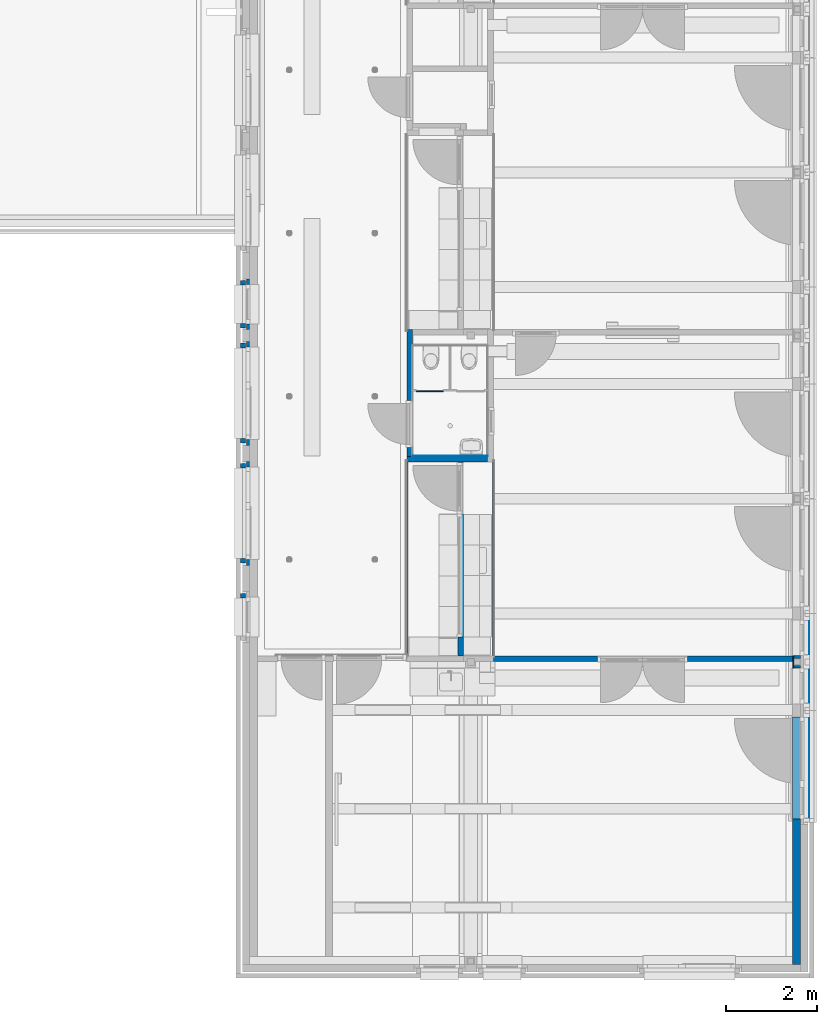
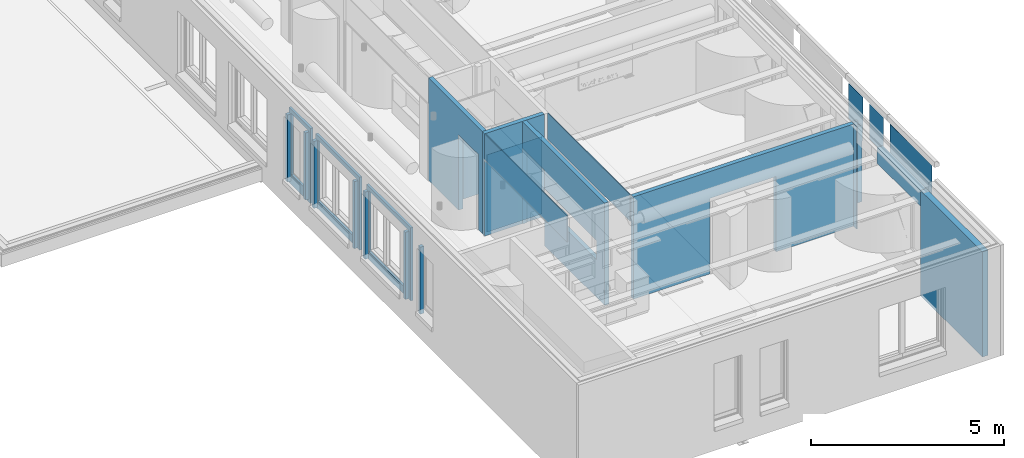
# One storey, part 34 of 128: 26 walls, 8 openings.
"""IFC2X3 building model written with IfcOpenShell, lengths in millimetres."""

from ifc_helpers import new_model, entity, si_unit, converted_unit, derived_unit, direction, frame, frame_2d, origin, place, context, subcontext, project, spatial, rectangle, extrude, material, layer, layer_set, layer_usage, type_object, element, save


model = new_model("IFC2X3")

# Units and contexts
model_context = context("Model", 3, precision=0.01, world=origin(), true_north=direction((6.123031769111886e-17, 1.0)))
body_context = subcontext(model_context, "Body", "Model", "MODEL_VIEW")
ifc_project = project(units=[si_unit("LENGTHUNIT", "METRE", prefix="MILLI"), si_unit("AREAUNIT", "SQUARE_METRE"), si_unit("VOLUMEUNIT", "CUBIC_METRE"), converted_unit("PLANEANGLEUNIT", "DEGREE", entity("IfcRatioMeasure", 0.017453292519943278), si_unit("PLANEANGLEUNIT", "RADIAN"), dimensions=[0, 0, 0, 0, 0, 0, 0]), si_unit("MASSUNIT", "GRAM", prefix="KILO"), derived_unit("MASSDENSITYUNIT", [(si_unit("MASSUNIT", "GRAM", prefix="KILO"), 1), (si_unit("LENGTHUNIT", "METRE"), -3)]), derived_unit("IONCONCENTRATIONUNIT", [(si_unit("MASSUNIT", "GRAM", prefix="KILO"), 1), (si_unit("LENGTHUNIT", "METRE"), -3)]), derived_unit("MOMENTOFINERTIAUNIT", [(si_unit("LENGTHUNIT", "METRE"), 4)]), si_unit("TIMEUNIT", "SECOND"), si_unit("FREQUENCYUNIT", "HERTZ"), si_unit("THERMODYNAMICTEMPERATUREUNIT", "DEGREE_CELSIUS"), derived_unit("THERMALTRANSMITTANCEUNIT", [(si_unit("MASSUNIT", "GRAM", prefix="KILO"), 1), (si_unit("THERMODYNAMICTEMPERATUREUNIT", "KELVIN"), -1), (si_unit("TIMEUNIT", "SECOND"), -3)]), derived_unit("THERMALCONDUCTANCEUNIT", [(si_unit("MASSUNIT", "GRAM", prefix="KILO"), 1), (si_unit("THERMODYNAMICTEMPERATUREUNIT", "KELVIN"), -1), (si_unit("TIMEUNIT", "SECOND"), -3), (si_unit("LENGTHUNIT", "METRE"), 1)]), derived_unit("VOLUMETRICFLOWRATEUNIT", [(si_unit("LENGTHUNIT", "METRE"), 3), (si_unit("TIMEUNIT", "SECOND"), -1)]), derived_unit("MASSFLOWRATEUNIT", [(si_unit("MASSUNIT", "GRAM", prefix="KILO"), 1), (si_unit("TIMEUNIT", "SECOND"), -1)]), derived_unit("ROTATIONALFREQUENCYUNIT", [(si_unit("TIMEUNIT", "SECOND"), -1)]), si_unit("ELECTRICCURRENTUNIT", "AMPERE"), si_unit("ELECTRICVOLTAGEUNIT", "VOLT"), si_unit("POWERUNIT", "WATT"), si_unit("FORCEUNIT", "NEWTON", prefix="KILO"), si_unit("ILLUMINANCEUNIT", "LUX"), si_unit("LUMINOUSFLUXUNIT", "LUMEN"), si_unit("LUMINOUSINTENSITYUNIT", "CANDELA"), derived_unit("USERDEFINED", [(si_unit("MASSUNIT", "GRAM", prefix="KILO"), -1), (si_unit("LENGTHUNIT", "METRE"), -2), (si_unit("TIMEUNIT", "SECOND"), 3), (si_unit("LUMINOUSFLUXUNIT", "LUMEN"), 1)]), derived_unit("USERDEFINED", [(si_unit("MASSUNIT", "GRAM", prefix="KILO"), 1), (si_unit("TIMEUNIT", "SECOND"), -3), (si_unit("LENGTHUNIT", "METRE"), 3), (si_unit("ELECTRICCURRENTUNIT", "AMPERE"), -2)]), derived_unit("SOUNDPOWERUNIT", [(si_unit("MASSUNIT", "GRAM", prefix="KILO"), 1), (si_unit("TIMEUNIT", "SECOND"), -3), (si_unit("LENGTHUNIT", "METRE"), 2)]), derived_unit("SOUNDPRESSUREUNIT", [(si_unit("MASSUNIT", "GRAM", prefix="KILO"), 1), (si_unit("LENGTHUNIT", "METRE"), -1), (si_unit("TIMEUNIT", "SECOND"), -2)]), derived_unit("LINEARVELOCITYUNIT", [(si_unit("LENGTHUNIT", "METRE"), 1), (si_unit("TIMEUNIT", "SECOND"), -1)]), si_unit("PRESSUREUNIT", "PASCAL"), derived_unit("USERDEFINED", [(si_unit("MASSUNIT", "GRAM", prefix="KILO"), 1), (si_unit("LENGTHUNIT", "METRE"), -2), (si_unit("TIMEUNIT", "SECOND"), -2)]), derived_unit("LINEARFORCEUNIT", [(si_unit("MASSUNIT", "GRAM", prefix="KILO"), 1), (si_unit("TIMEUNIT", "SECOND"), -2)]), derived_unit("PLANARFORCEUNIT", [(si_unit("MASSUNIT", "GRAM", prefix="KILO"), 1), (si_unit("LENGTHUNIT", "METRE"), -1), (si_unit("TIMEUNIT", "SECOND"), -2)]), derived_unit("SPECIFICHEATCAPACITYUNIT", [(si_unit("THERMODYNAMICTEMPERATUREUNIT", "KELVIN"), -1), (si_unit("LENGTHUNIT", "METRE"), 2), (si_unit("TIMEUNIT", "SECOND"), -2)]), derived_unit("HEATINGVALUEUNIT", [(si_unit("LENGTHUNIT", "METRE"), 2), (si_unit("TIMEUNIT", "SECOND"), -2)]), derived_unit("VAPORPERMEABILITYUNIT", [(si_unit("LENGTHUNIT", "METRE"), -1), (si_unit("TIMEUNIT", "SECOND"), 1)]), derived_unit("DYNAMICVISCOSITYUNIT", [(si_unit("MASSUNIT", "GRAM", prefix="KILO"), 1), (si_unit("TIMEUNIT", "SECOND"), -1), (si_unit("LENGTHUNIT", "METRE"), -1)]), derived_unit("THERMALEXPANSIONCOEFFICIENTUNIT", [(si_unit("THERMODYNAMICTEMPERATUREUNIT", "KELVIN"), -1)]), derived_unit("MODULUSOFELASTICITYUNIT", [(si_unit("MASSUNIT", "GRAM", prefix="KILO"), 1), (si_unit("LENGTHUNIT", "METRE"), -1), (si_unit("TIMEUNIT", "SECOND"), -2)]), derived_unit("ISOTHERMALMOISTURECAPACITYUNIT", [(si_unit("LENGTHUNIT", "METRE"), 3), (si_unit("MASSUNIT", "GRAM", prefix="KILO"), -1)]), derived_unit("MOISTUREDIFFUSIVITYUNIT", [(si_unit("TIMEUNIT", "SECOND"), -1), (si_unit("LENGTHUNIT", "METRE"), 2)])], contexts=[model_context])

# Site, building, storey
site_placement = place(None, frame((0.0, 300.0, 0.0)))
site = spatial("IfcSite", under=ifc_project, at=site_placement, Name="<Kadastrale nummers>", CompositionType="ELEMENT")
building_placement = place(site_placement, origin())
building = spatial("IfcBuilding", under=site, at=building_placement, CompositionType="ELEMENT")
storey_placement = place(building_placement, frame((0.0, 0.0, 3560.0000331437)))
storey = spatial("IfcBuildingStorey", under=building, at=storey_placement, Name="01 eerste verdieping", CompositionType="ELEMENT", Elevation=3560.0000331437)

# Walls
ifc_material_1 = material(Name="ISR_Metselwerk")
ifc_layer_1 = layer(ifc_material_1, 100.0)
ifc_layer_set_1 = layer_set([ifc_layer_1], Name="Basic Wall:21_DAT_metselwerk_100")
ifc_layer_usage_1 = layer_usage(ifc_layer_set_1, "AXIS2", "POSITIVE", -50.0)
wall_type_1 = type_object("IfcWallType", Name="Basic Wall:21_DAT_metselwerk_100", PredefinedType="STANDARD", material=ifc_layer_set_1)
wall_1_placement = place(storey_placement, frame((36325.0, 10760.0, 715.0000018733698)))
element("IfcWallStandardCase", 1, at=wall_1_placement, inside=storey, type_object=wall_type_1, material=ifc_layer_usage_1, Name="Basic Wall:21_DAT_metselwerk_100", ObjectType="Basic Wall:21_DAT_metselwerk_100", context=body_context, shape_type="SweptSolid", body=[
    extrude(rectangle(XDim=110.00000000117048, YDim=99.99999999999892, at=frame_2d((55.00000000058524, 6.750155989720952e-14), x_axis=(-1.0, 0.0))), origin(), (0.0, 0.0, 1.0), 2125.0000000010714),
])
ifc_layer_usage_2 = layer_usage(ifc_layer_set_1, "AXIS2", "NEGATIVE", 50.0)
wall_2_placement = place(storey_placement, frame((36325.0, 16720.0, 715.0000018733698)))
element("IfcWallStandardCase", 2, at=wall_2_placement, inside=storey, type_object=wall_type_1, material=ifc_layer_usage_2, Name="Basic Wall:21_DAT_metselwerk_100", ObjectType="Basic Wall:21_DAT_metselwerk_100", context=body_context, shape_type="SweptSolid", body=[
    extrude(rectangle(XDim=110.00000000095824, YDim=99.99999999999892, at=frame_2d((55.00000000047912, 7.531752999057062e-13), x_axis=(-1.0, 0.0))), origin(), (0.0, 0.0, 1.0), 2125.0000000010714),
])
wall_3_placement = place(storey_placement, frame((36325.0, 17660.0, 715.0000018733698)))
element("IfcWallStandardCase", 3, at=wall_3_placement, inside=storey, type_object=wall_type_1, material=ifc_layer_usage_1, Name="Basic Wall:21_DAT_metselwerk_100", ObjectType="Basic Wall:21_DAT_metselwerk_100", context=body_context, shape_type="SweptSolid", body=[
    extrude(rectangle(XDim=110.00000000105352, YDim=99.99999999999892, at=frame_2d((55.00000000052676, 7.531752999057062e-13), x_axis=(-1.0, 0.0))), origin(), (0.0, 0.0, 1.0), 2125.0000000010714),
])
wall_4_placement = place(storey_placement, frame((36325.0, 11530.0, 715.0000018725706)))
element("IfcWallStandardCase", 4, at=wall_4_placement, inside=storey, type_object=wall_type_1, material=ifc_layer_usage_2, Name="Basic Wall:21_DAT_metselwerk_100", ObjectType="Basic Wall:21_DAT_metselwerk_100", context=body_context, shape_type="SweptSolid", body=[
    extrude(rectangle(XDim=110.00000000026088, YDim=99.99999999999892, at=frame_2d((55.00000000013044, -1.6697754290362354e-13), x_axis=(-1.0, 0.0))), origin(), (0.0, 0.0, 1.0), 2125.0000000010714),
])
wall_5_placement = place(storey_placement, frame((36325.0, 13630.0, 715.0000018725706)))
element("IfcWallStandardCase", 5, at=wall_5_placement, inside=storey, type_object=wall_type_1, material=ifc_layer_usage_1, Name="Basic Wall:21_DAT_metselwerk_100", ObjectType="Basic Wall:21_DAT_metselwerk_100", context=body_context, shape_type="SweptSolid", body=[
    extrude(rectangle(XDim=110.00000000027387, YDim=99.99999999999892, at=frame_2d((55.000000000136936, -7.993605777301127e-13), x_axis=(-1.0, 0.0))), origin(), (0.0, 0.0, 1.0), 2125.0000000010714),
])
wall_6_placement = place(storey_placement, frame((36325.0, 14180.0, 715.0000018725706)))
element("IfcWallStandardCase", 6, at=wall_6_placement, inside=storey, type_object=wall_type_1, material=ifc_layer_usage_2, Name="Basic Wall:21_DAT_metselwerk_100", ObjectType="Basic Wall:21_DAT_metselwerk_100", context=body_context, shape_type="SweptSolid", body=[
    extrude(rectangle(XDim=110.00000000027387, YDim=99.99999999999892, at=frame_2d((55.000000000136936, -1.6697754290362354e-13), x_axis=(-1.0, 0.0))), origin(), (0.0, 0.0, 1.0), 2125.0000000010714),
])
wall_7_placement = place(storey_placement, frame((36325.0, 16280.0, 715.0000018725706)))
element("IfcWallStandardCase", 7, at=wall_7_placement, inside=storey, type_object=wall_type_1, material=ifc_layer_usage_1, Name="Basic Wall:21_DAT_metselwerk_100", ObjectType="Basic Wall:21_DAT_metselwerk_100", context=body_context, shape_type="SweptSolid", body=[
    extrude(rectangle(XDim=110.00000000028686, YDim=99.99999999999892, at=frame_2d((55.00000000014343, -7.993605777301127e-13), x_axis=(-1.0, 0.0))), origin(), (0.0, 0.0, 1.0), 2125.0000000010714),
])

# Wall, opening
ifc_material_2 = material(Name="ISR_Gips")
ifc_layer_2 = layer(ifc_material_2, 1.0)
ifc_material_3 = material(Name="ISR_Binnenwand")
ifc_layer_3 = layer(ifc_material_3, 123.0)
ifc_layer_4 = layer(ifc_material_2, 1.0)
ifc_layer_set_2 = layer_set([ifc_layer_2, ifc_layer_3, ifc_layer_4], Name="Basic Wall:22_DAT_binnenwand_125")
ifc_layer_usage_3 = layer_usage(ifc_layer_set_2, "AXIS2", "NEGATIVE", 62.50000000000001)
wall_type_2 = type_object("IfcWallType", Name="Basic Wall:22_DAT_binnenwand_125", PredefinedType="STANDARD", material=ifc_layer_set_2)
wall_8_placement = place(storey_placement, frame((40052.49999999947, 16634.99862327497, 90.00000187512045), z_axis=(0.0, 0.0, 1.0), x_axis=(0.0, -1.0, 0.0)))
wall_8 = element("IfcWallStandardCase", 8, at=wall_8_placement, inside=storey, type_object=wall_type_2, material=ifc_layer_usage_3, Name="Basic Wall:22_DAT_binnenwand_125", ObjectType="Basic Wall:22_DAT_binnenwand_125", context=body_context, shape_type="SweptSolid", body=[
    extrude(rectangle(XDim=2799.999999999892, YDim=125.00000000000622, at=frame_2d((1399.999999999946, 2.6503244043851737e-12), x_axis=(-1.0, 0.0))), origin(), (0.0, 0.0, 1.0), 3240.0000290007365),
])
opening_1_placement = place(wall_8_placement, origin())
element("IfcOpeningElement", 9, at=opening_1_placement, cuts=wall_8, Name="Basic Wall:22_DAT_binnenwand_125", ObjectType="Opening", context=body_context, shape_type="SweptSolid", body=[
    extrude(rectangle(XDim=2390.0000000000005, YDim=1034.000000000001, at=frame_2d((1.0800249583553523e-12, 0.0), x_axis=(0.0, 1.0))), frame((2089.001376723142, -214.90000000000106, 1195.0), z_axis=(0.0, 1.0, 0.0), x_axis=(-1.0, 0.0, 0.0)), (0.0, 0.0, 1.0), 429.79999999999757),
])

wall_9_placement = place(storey_placement, frame((48500.0, 9372.498623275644, 90.00000187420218), z_axis=(0.0, 0.0, 1.0), x_axis=(-1.0, 0.0, 0.0)))
wall_9 = element("IfcWallStandardCase", 10, at=wall_9_placement, inside=storey, type_object=wall_type_2, material=ifc_layer_usage_3, Name="Basic Wall:22_DAT_binnenwand_125", ObjectType="Basic Wall:22_DAT_binnenwand_125", context=body_context, shape_type="SweptSolid", body=[
    extrude(rectangle(XDim=6600.000000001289, YDim=124.99999999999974, at=frame_2d((3300.0000000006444, 0.0), x_axis=(1.0, 0.0))), origin(), (0.0, 0.0, 1.0), 3239.9999999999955),
])
opening_2_placement = place(wall_9_placement, origin())
element("IfcOpeningElement", 11, at=opening_2_placement, cuts=wall_9, Name="Basic Wall:22_DAT_binnenwand_125", ObjectType="Opening", context=body_context, shape_type="SweptSolid", body=[
    extrude(rectangle(XDim=2390.0000000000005, YDim=1979.9999999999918, at=frame_2d((-4.376943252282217e-12, 0.0), x_axis=(0.0, 1.0))), frame((3310.0, -214.89999999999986, 1195.0), z_axis=(0.0, 1.0, 0.0), x_axis=(-1.0, 0.0, 0.0)), (0.0, 0.0, 1.0), 429.7999999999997),
])

# Wall
ifc_layer_5 = layer(ifc_material_3, 113.0)
ifc_material_4 = material(Name="ISR_HPL Kleur hout")
ifc_layer_6 = layer(ifc_material_4, 12.0)
ifc_layer_set_3 = layer_set([ifc_layer_5, ifc_layer_6], Name="Basic Wall:22_DAT_binnenwand_125 HPL")
ifc_layer_usage_4 = layer_usage(ifc_layer_set_3, "AXIS2", "POSITIVE", -62.49999999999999)
wall_type_3 = type_object("IfcWallType", Name="Basic Wall:22_DAT_binnenwand_125 HPL", PredefinedType="STANDARD", material=ifc_layer_set_3)
wall_10_placement = place(storey_placement, frame((41775.0, 13772.498623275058, 90.00000187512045), z_axis=(0.0, 0.0, 1.0), x_axis=(-1.0, 0.0, 0.0)))
element("IfcWallStandardCase", 12, at=wall_10_placement, inside=storey, type_object=wall_type_3, material=ifc_layer_usage_4, Name="Basic Wall:22_DAT_binnenwand_125 HPL", ObjectType="Basic Wall:22_DAT_binnenwand_125 HPL", context=body_context, shape_type="SweptSolid", body=[
    extrude(rectangle(XDim=1784.9999999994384, YDim=125.0000000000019, at=frame_2d((892.4999999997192, -4.511946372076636e-13), x_axis=(-1.0, 0.0))), origin(), (0.0, 0.0, 1.0), 3240.0000290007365),
])

# Wall, openings
ifc_layer_7 = layer(ifc_material_4, 12.0)
ifc_layer_8 = layer(ifc_material_3, 101.0)
ifc_layer_9 = layer(ifc_material_4, 12.0)
ifc_layer_set_4 = layer_set([ifc_layer_7, ifc_layer_8, ifc_layer_9], Name="Basic Wall:22_DAT_binnenwand_125 HPL dubbel")
ifc_layer_usage_5 = layer_usage(ifc_layer_set_4, "AXIS2", "NEGATIVE", 62.50000000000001)
wall_type_4 = type_object("IfcWallType", Name="Basic Wall:22_DAT_binnenwand_125 HPL dubbel", PredefinedType="STANDARD", material=ifc_layer_set_4)
wall_11_placement = place(storey_placement, frame((41177.500000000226, 13709.998623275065, 90.00000187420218), z_axis=(0.0, 0.0, 1.0), x_axis=(0.0, -1.0, 0.0)))
wall_11 = element("IfcWallStandardCase", 13, at=wall_11_placement, inside=storey, type_object=wall_type_4, material=ifc_layer_usage_5, Name="Basic Wall:22_DAT_binnenwand_125 HPL dubbel", ObjectType="Basic Wall:22_DAT_binnenwand_125 HPL dubbel", context=body_context, shape_type="SweptSolid", body=[
    extrude(rectangle(XDim=4274.999999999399, YDim=125.00000000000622, at=frame_2d((2137.4999999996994, -1.0302869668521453e-12), x_axis=(-1.0, 0.0))), origin(), (0.0, 0.0, 1.0), 3239.9999999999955),
])
opening_3_placement = place(wall_11_placement, origin())
element("IfcOpeningElement", 14, at=opening_3_placement, cuts=wall_11, Name="Basic Wall:22_DAT_binnenwand_125 HPL dubbel", ObjectType="Opening", context=body_context, shape_type="SweptSolid", body=[
    extrude(rectangle(XDim=2390.0000000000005, YDim=1133.9999999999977, at=frame_2d((0.0, 0.0), x_axis=(0.0, 1.0))), frame((582.0013767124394, -214.8999999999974, 1195.0), z_axis=(0.0, 1.0, 0.0), x_axis=(-1.0, 0.0, 0.0)), (0.0, 0.0, 1.0), 429.79999999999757),
])
opening_4_placement = place(wall_11_placement, origin())
element("IfcOpeningElement", 15, at=opening_4_placement, cuts=wall_11, Name="Basic Wall:22_DAT_binnenwand_125 HPL dubbel", ObjectType="Opening", context=body_context, shape_type="SweptSolid", body=[
    extrude(rectangle(XDim=600.0, YDim=2710.0000000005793, at=frame_2d((0.0, 0.0), x_axis=(0.0, 1.0))), frame((2504.001376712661, -214.90000000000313, 1500.0), z_axis=(0.0, 1.0, 0.0), x_axis=(-1.0, 0.0, 0.0)), (0.0, 0.0, 1.0), 429.79999999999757),
])

# Walls
ifc_layer_10 = layer(ifc_material_2, 1.0)
ifc_layer_11 = layer(ifc_material_3, 23.0)
ifc_layer_12 = layer(ifc_material_2, 1.0)
ifc_layer_set_5 = layer_set([ifc_layer_10, ifc_layer_11, ifc_layer_12], Name="Basic Wall:22_DAT_binnenwand_25")
ifc_layer_usage_6 = layer_usage(ifc_layer_set_5, "AXIS2", "NEGATIVE", 12.499999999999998)
wall_type_5 = type_object("IfcWallType", Name="Basic Wall:22_DAT_binnenwand_25", PredefinedType="STANDARD", material=ifc_layer_set_5)
wall_12_placement = place(storey_placement, frame((40002.49999999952, 13709.997246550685, 2490.000024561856), z_axis=(0.0, 0.0, 1.0), x_axis=(0.0, -1.0, 0.0)))
element("IfcWallStandardCase", 16, at=wall_12_placement, inside=storey, type_object=wall_type_5, material=ifc_layer_usage_6, Name="Basic Wall:22_DAT_binnenwand_25", ObjectType="Basic Wall:22_DAT_binnenwand_25", context=body_context, shape_type="SweptSolid", body=[
    extrude(rectangle(XDim=4274.9999999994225, YDim=24.999999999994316, at=frame_2d((2137.4999999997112, 0.0), x_axis=(-1.0, 0.0))), origin(), (0.0, 0.0, 1.0), 840.0000063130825),
])
ifc_layer_usage_7 = layer_usage(ifc_layer_set_5, "AXIS2", "POSITIVE", -12.499999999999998)
wall_13_placement = place(storey_placement, frame((41887.499999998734, 13709.997246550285, 2490.000024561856), z_axis=(0.0, 0.0, 1.0), x_axis=(0.0, -1.0, 0.0)))
element("IfcWallStandardCase", 17, at=wall_13_placement, inside=storey, type_object=wall_type_5, material=ifc_layer_usage_7, Name="Basic Wall:22_DAT_binnenwand_25", ObjectType="Basic Wall:22_DAT_binnenwand_25", context=body_context, shape_type="SweptSolid", body=[
    extrude(rectangle(XDim=4274.999999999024, YDim=24.999999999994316, at=frame_2d((2137.499999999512, 0.0), x_axis=(-1.0, 0.0))), origin(), (0.0, 0.0, 1.0), 840.0000063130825),
])
wall_14_placement = place(storey_placement, frame((48512.49999999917, 9160.0, 90.00000187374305), z_axis=(0.0, 0.0, 1.0), x_axis=(0.0, 1.0, 0.0)))
element("IfcWallStandardCase", 18, at=wall_14_placement, inside=storey, type_object=wall_type_5, material=ifc_layer_usage_7, Name="Basic Wall:22_DAT_binnenwand_25", ObjectType="Basic Wall:22_DAT_binnenwand_25", context=body_context, shape_type="SweptSolid", body=[
    extrude(rectangle(XDim=279.9999999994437, YDim=24.999999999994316, at=frame_2d((139.99999999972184, 7.194245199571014e-14), x_axis=(-1.0, 0.0))), origin(), (0.0, 0.0, 1.0), 3240.000000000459),
])
ifc_material_5 = material(Name="ISR_Kunststof_grijs")
ifc_layer_13 = layer(ifc_material_5, 25.0)
ifc_layer_set_6 = layer_set([ifc_layer_13], Name="Basic Wall:43_DAT_sanitairewand")
ifc_layer_usage_8 = layer_usage(ifc_layer_set_6, "AXIS2", "NEGATIVE", 12.500000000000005)
wall_type_6 = type_object("IfcWallType", Name="Basic Wall:43_DAT_sanitairewand", PredefinedType="STANDARD", material=ifc_layer_set_6)
wall_15_placement = place(storey_placement, frame((40195.0, 15267.498623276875, 240.00000187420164)))
element("IfcWallStandardCase", 19, at=wall_15_placement, inside=storey, type_object=wall_type_6, material=ifc_layer_usage_8, Name="Basic Wall:43_DAT_sanitairewand", ObjectType="Basic Wall:43_DAT_sanitairewand", context=body_context, shape_type="SweptSolid", body=[
    extrude(rectangle(XDim=600.0000000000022, YDim=24.99999999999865, at=frame_2d((300.0000000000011, 4.1300296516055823e-13), x_axis=(-1.0, 0.0))), origin(), (0.0, 0.0, 1.0), 2000.0000000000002),
])
ifc_layer_14 = layer(ifc_material_2, 1.0)
ifc_material_6 = material(Name="ISR_Kalkzandsteen")
ifc_layer_15 = layer(ifc_material_6, 173.0)
ifc_layer_16 = layer(ifc_material_2, 1.0)
ifc_layer_set_7 = layer_set([ifc_layer_14, ifc_layer_15, ifc_layer_16], Name="Basic Wall:28_DAT_kalkzandsteen_175mm")
ifc_layer_usage_9 = layer_usage(ifc_layer_set_7, "AXIS2", "NEGATIVE", 87.49999999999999)
wall_type_7 = type_object("IfcWallType", Name="Basic Wall:28_DAT_kalkzandsteen_175mm", PredefinedType="STANDARD", material=ifc_layer_set_7)
wall_16_placement = place(storey_placement, frame((48587.50000000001, 2625.0, 0.0), z_axis=(0.0, 0.0, 1.0), x_axis=(0.0, 1.0, 0.0)))
element("IfcWallStandardCase", 20, at=wall_16_placement, inside=storey, type_object=wall_type_7, material=ifc_layer_usage_9, Name="Basic Wall:28_DAT_kalkzandsteen_175mm", ObjectType="Basic Wall:28_DAT_kalkzandsteen_175mm", context=body_context, shape_type="SweptSolid", body=[
    extrude(rectangle(XDim=3214.999999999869, YDim=174.99999999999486, at=frame_2d((1607.4999999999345, 0.0), x_axis=(-1.0, 0.0))), origin(), (0.0, 0.0, 1.0), 3330.000001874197),
])
ifc_material_7 = material(Name="STAAL_RAL 7006")
ifc_layer_17 = layer(ifc_material_7, 2.0)
ifc_layer_set_8 = layer_set([ifc_layer_17], Name="Basic Wall:21_DAT_zetwerk_2")
ifc_layer_usage_10 = layer_usage(ifc_layer_set_8, "AXIS2", "NEGATIVE", 1.000000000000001)
wall_type_8 = type_object("IfcWallType", Name="Basic Wall:21_DAT_zetwerk_2", PredefinedType="STANDARD", material=ifc_layer_set_8)
for number, where, z_axis, x_axis, name in (
    (21, (48871.0, 10202.0, 2829.9999668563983), (0.0, 0.0, 1.0), (0.0, -1.0, 0.0), "Basic Wall:21_DAT_zetwerk_2"),
    (22, (48871.0, 9132.0, 2829.9999668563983), (0.0, 0.0, 1.0), (0.0, -1.0, 0.0), "Basic Wall:21_DAT_zetwerk_2"),
):
    element("IfcWallStandardCase", number, at=place(storey_placement, frame(where, z_axis=z_axis, x_axis=x_axis)), inside=storey, type_object=wall_type_8, material=ifc_layer_usage_10, Name=name, ObjectType="Basic Wall:21_DAT_zetwerk_2", context=body_context, shape_type="SweptSolid", body=[
        extrude(rectangle(XDim=733.9999999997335, YDim=1.9999999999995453, at=frame_2d((366.99999999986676, 1.0186296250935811e-12), x_axis=(-1.0, 0.0))), origin(), (0.0, 0.0, 1.0), 1120.0000000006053),
    ])
wall_17_placement = place(storey_placement, frame((48866.0, 8062.0, 2829.999966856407), z_axis=(0.0, 0.0, 1.0), x_axis=(0.0, -1.0, 0.0)))
element("IfcWallStandardCase", 23, at=wall_17_placement, inside=storey, type_object=wall_type_8, material=ifc_layer_usage_10, Name="Basic Wall:21_DAT_zetwerk_2", ObjectType="Basic Wall:21_DAT_zetwerk_2", context=body_context, shape_type="SweptSolid", body=[
    extrude(rectangle(XDim=2193.9999999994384, YDim=1.9999999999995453, at=frame_2d((1096.9999999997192, 0.0), x_axis=(-1.0, 0.0))), origin(), (0.0, 0.0, 1.0), 1135.000000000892),
])
ifc_layer_18 = layer(ifc_material_2, 12.5)
ifc_layer_19 = layer(ifc_material_2, 12.5)
ifc_material_8 = material(Name="ISR_Dak_isolatie(198)")
ifc_layer_20 = layer(ifc_material_8, 140.0)
ifc_material_9 = material(Name="ISR_Multiplex")
ifc_layer_21 = layer(ifc_material_9, 10.0)
ifc_layer_set_9 = layer_set([ifc_layer_18, ifc_layer_19, ifc_layer_20, ifc_layer_21], Name="Basic Wall:21_DAT_Hekwerk 175")
ifc_layer_usage_11 = layer_usage(ifc_layer_set_9, "AXIS2", "POSITIVE", -87.5)
wall_type_9 = type_object("IfcWallType", Name="Basic Wall:21_DAT_Hekwerk 175", PredefinedType="STANDARD", material=ifc_layer_set_9)
wall_18_placement = place(storey_placement, frame((48587.500000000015, 8090.0, 2830.0), z_axis=(0.0, 0.0, 1.0), x_axis=(0.0, -1.0, 0.0)))
element("IfcWallStandardCase", 24, at=wall_18_placement, inside=storey, type_object=wall_type_9, material=ifc_layer_usage_11, Name="Basic Wall:21_DAT_Hekwerk 175", ObjectType="Basic Wall:21_DAT_Hekwerk 175", context=body_context, shape_type="SweptSolid", body=[
    extrude(rectangle(XDim=2249.99999999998, YDim=174.99999999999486, at=frame_2d((1124.99999999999, 0.0), x_axis=(-1.0, 0.0))), origin(), (0.0, 0.0, 1.0), 500.00003087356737),
])

# Wall, opening
ifc_material_10 = material(Name="ISR_Isolatie")
ifc_layer_22 = layer(ifc_material_10, 70.0)
ifc_layer_set_10 = layer_set([ifc_layer_22], Name="Basic Wall:21_DAT_isolatie hard_74")
ifc_layer_usage_12 = layer_usage(ifc_layer_set_10, "AXIS2", "POSITIVE", -35.0)
wall_type_10 = type_object("IfcWallType", Name="Basic Wall:21_DAT_isolatie hard_74", PredefinedType="STANDARD", material=ifc_layer_set_10)
wall_19_placement = place(storey_placement, frame((36490.0, 17750.0, 589.9999668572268), z_axis=(0.0, 0.0, 1.0), x_axis=(0.0, -1.0, 0.0)))
wall_19 = element("IfcWallStandardCase", 25, at=wall_19_placement, inside=storey, type_object=wall_type_10, material=ifc_layer_usage_12, Name="Basic Wall:21_DAT_isolatie hard_74", ObjectType="Basic Wall:21_DAT_isolatie hard_74", context=body_context, shape_type="SweptSolid", body=[
    extrude(rectangle(XDim=1119.9999999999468, YDim=70.00000000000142, at=frame_2d((559.9999999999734, -1.2789769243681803e-13), x_axis=(-1.0, 0.0))), origin(), (0.0, 0.0, 1.0), 2375.000035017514),
])
opening_5_placement = place(wall_19_placement, origin())
element("IfcOpeningElement", 26, at=opening_5_placement, cuts=wall_19, Name="Basic Wall:21_DAT_isolatie hard_74", ObjectType="Opening", context=body_context, shape_type="SweptSolid", body=[
    extrude(rectangle(XDim=1929.9999999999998, YDim=879.9999999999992, at=frame_2d((5.684341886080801e-13, 0.0), x_axis=(1.0, 0.0))), frame((560.0, -187.40000000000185, 1275.0000350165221), z_axis=(0.0, 1.0, 0.0), x_axis=(0.0, 0.0, 1.0)), (0.0, 0.0, 1.0), 374.80000000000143),
])

wall_20_placement = place(storey_placement, frame((36490.0, 13720.0, 652.50000187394), z_axis=(0.0, 0.0, 1.0), x_axis=(0.0, -1.0, 0.0)))
wall_20 = element("IfcWallStandardCase", 27, at=wall_20_placement, inside=storey, type_object=wall_type_10, material=ifc_layer_usage_12, Name="Basic Wall:21_DAT_isolatie hard_74", ObjectType="Basic Wall:21_DAT_isolatie hard_74", context=body_context, shape_type="SweptSolid", body=[
    extrude(rectangle(XDim=2289.999999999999, YDim=70.00000000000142, at=frame_2d((1144.9999999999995, -8.526512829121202e-13), x_axis=(-1.0, 0.0))), origin(), (0.0, 0.0, 1.0), 2312.5000000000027),
])
opening_6_placement = place(wall_20_placement, origin())
element("IfcOpeningElement", 28, at=opening_6_placement, cuts=wall_20, Name="Basic Wall:21_DAT_isolatie hard_74", ObjectType="Opening", context=body_context, shape_type="SweptSolid", body=[
    extrude(rectangle(XDim=1930.000000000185, YDim=2039.9999999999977, at=frame_2d((0.0, -1.0800249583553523e-12), x_axis=(1.0, 0.0))), frame((1140.0, -187.3999999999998, 1212.499999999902), z_axis=(0.0, 1.0, 0.0), x_axis=(0.0, 0.0, 1.0)), (0.0, 0.0, 1.0), 374.80000000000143),
])

wall_21_placement = place(storey_placement, frame((36490.0, 16370.0, 652.50000187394), z_axis=(0.0, 0.0, 1.0), x_axis=(0.0, -1.0, 0.0)))
wall_21 = element("IfcWallStandardCase", 29, at=wall_21_placement, inside=storey, type_object=wall_type_10, material=ifc_layer_usage_12, Name="Basic Wall:21_DAT_isolatie hard_74", ObjectType="Basic Wall:21_DAT_isolatie hard_74", context=body_context, shape_type="SweptSolid", body=[
    extrude(rectangle(XDim=2289.999999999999, YDim=70.00000000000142, at=frame_2d((1144.9999999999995, -8.526512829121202e-13), x_axis=(-1.0, 0.0))), origin(), (0.0, 0.0, 1.0), 2312.5000000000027),
])
opening_7_placement = place(wall_21_placement, origin())
element("IfcOpeningElement", 30, at=opening_7_placement, cuts=wall_21, Name="Basic Wall:21_DAT_isolatie hard_74", ObjectType="Opening", context=body_context, shape_type="SweptSolid", body=[
    extrude(rectangle(XDim=1930.000000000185, YDim=2039.9999999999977, at=frame_2d((0.0, -1.0800249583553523e-12), x_axis=(1.0, 0.0))), frame((1140.0, -187.40000000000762, 1212.499999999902), z_axis=(0.0, 1.0, 0.0), x_axis=(0.0, 0.0, 1.0)), (0.0, 0.0, 1.0), 374.80000000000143),
])

# Walls
ifc_material_11 = material(Name="ISR_Tegels_grijs_150x150")
ifc_layer_23 = layer(ifc_material_11, 10.0)
ifc_layer_set_11 = layer_set([ifc_layer_23], Name="Basic Wall:43_DAT_Wandtegelwerk")
ifc_layer_usage_13 = layer_usage(ifc_layer_set_11, "AXIS2", "NEGATIVE", 5.0)
wall_type_11 = type_object("IfcWallType", Name="Basic Wall:43_DAT_Wandtegelwerk", PredefinedType="STANDARD", material=ifc_layer_set_11)
wall_22_placement = place(storey_placement, frame((40125.0, 13839.998623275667, 90.00000187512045)))
element("IfcWallStandardCase", 31, at=wall_22_placement, inside=storey, type_object=wall_type_11, material=ifc_layer_usage_13, Name="Basic Wall:43_DAT_Wandtegelwerk", ObjectType="Basic Wall:43_DAT_Wandtegelwerk", context=body_context, shape_type="SweptSolid", body=[
    extrude(rectangle(XDim=1649.9999999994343, YDim=10.000000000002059, at=frame_2d((824.9999999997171, 0.0), x_axis=(-1.0, 0.0))), origin(), (0.0, 0.0, 1.0), 2450.0000226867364),
])
ifc_layer_24 = layer(ifc_material_8, 140.0)
ifc_layer_25 = layer(ifc_material_9, 10.0)
ifc_layer_set_12 = layer_set([ifc_layer_24, ifc_layer_25], Name="Basic Wall:21_DAT_Hekwerk 150")
ifc_layer_usage_14 = layer_usage(ifc_layer_set_12, "AXIS2", "NEGATIVE", 75.0)
wall_type_12 = type_object("IfcWallType", Name="Basic Wall:21_DAT_Hekwerk 150", PredefinedType="STANDARD", material=ifc_layer_set_12)
wall_23_placement = place(storey_placement, frame((48600.0, 9380.0, 900.0000018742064), z_axis=(0.0, 0.0, 1.0), x_axis=(0.0, 1.0, 0.0)))
element("IfcWallStandardCase", 32, at=wall_23_placement, inside=storey, type_object=wall_type_12, material=ifc_layer_usage_14, Name="Basic Wall:21_DAT_Hekwerk 150", ObjectType="Basic Wall:21_DAT_Hekwerk 150", context=body_context, shape_type="SweptSolid", body=[
    extrude(rectangle(XDim=60.0000000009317, YDim=150.00000000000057, at=frame_2d((30.00000000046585, -1.8687273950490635e-12), x_axis=(-1.0, 0.0))), origin(), (0.0, 0.0, 1.0), 2429.9999999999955),
])

# Wall, opening
ifc_layer_usage_15 = layer_usage(ifc_layer_set_12, "AXIS2", "POSITIVE", -75.0)
wall_24_placement = place(storey_placement, frame((48600.0, 9220.0, 900.0000018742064), z_axis=(0.0, 0.0, 1.0), x_axis=(0.0, -1.0, 0.0)))
wall_24 = element("IfcWallStandardCase", 33, at=wall_24_placement, inside=storey, type_object=wall_type_12, material=ifc_layer_usage_15, Name="Basic Wall:21_DAT_Hekwerk 150", ObjectType="Basic Wall:21_DAT_Hekwerk 150", context=body_context, shape_type="SweptSolid", body=[
    extrude(rectangle(XDim=59.999999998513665, YDim=150.00000000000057, at=frame_2d((29.999999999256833, 2.8279600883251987e-12), x_axis=(-1.0, 0.0))), origin(), (0.0, 0.0, 1.0), 2429.9999999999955),
])
opening_8_placement = place(wall_24_placement, origin())
element("IfcOpeningElement", 34, at=opening_8_placement, cuts=wall_24, Name="Basic Wall:21_DAT_Hekwerk 150", ObjectType="Opening", context=body_context, shape_type="SweptSolid", body=[
    extrude(rectangle(XDim=1929.9999649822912, YDim=790.0000000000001, at=frame_2d((0.0, 0.0), x_axis=(0.0, 1.0))), frame((447.0, -227.40000000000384, 964.9999824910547), z_axis=(0.0, 1.0, 0.0), x_axis=(-1.0, 0.0, 0.0)), (0.0, 0.0, 1.0), 454.8000000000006),
])

save(model, "model.ifc")
